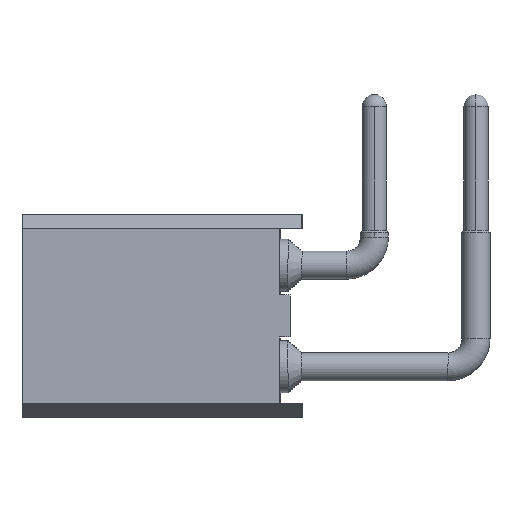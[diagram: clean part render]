
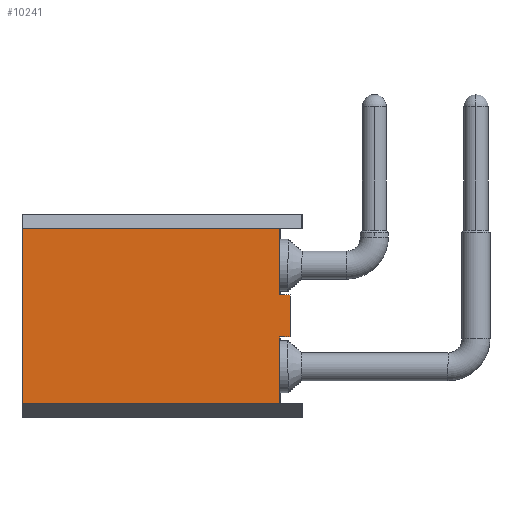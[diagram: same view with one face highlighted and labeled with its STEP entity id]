
A CAD part, left-side view. The second image highlights one B-rep face of the part: STEP entity #10241.
In plain terms, the highlighted planar face has unit normal (-1, 0, 0).
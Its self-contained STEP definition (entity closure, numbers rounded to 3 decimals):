
#174 = VERTEX_POINT ( 'NONE', #4517 ) ;
#452 = ORIENTED_EDGE ( 'NONE', *, *, #4054, .F. ) ;
#500 = LINE ( 'NONE', #1174, #7271 ) ;
#508 = ORIENTED_EDGE ( 'NONE', *, *, #3466, .F. ) ;
#711 = CARTESIAN_POINT ( 'NONE',  ( -1.299, -3.5, -3.419 ) ) ;
#1174 = CARTESIAN_POINT ( 'NONE',  ( -1.299, -3.05, -0.704 ) ) ;
#1310 = ORIENTED_EDGE ( 'NONE', *, *, #9054, .T. ) ;
#1502 = VECTOR ( 'NONE', #4329, 1000. ) ;
#1923 = DIRECTION ( 'NONE',  ( 0., 0., -1. ) ) ;
#2153 = CARTESIAN_POINT ( 'NONE',  ( -1.299, 3.5, -1.229 ) ) ;
#2385 = VERTEX_POINT ( 'NONE', #2921 ) ;
#2529 = CARTESIAN_POINT ( 'NONE',  ( -1.299, -2.95, 0.961 ) ) ;
#2636 = VERTEX_POINT ( 'NONE', #10167 ) ;
#2921 = CARTESIAN_POINT ( 'NONE',  ( -1.299, -3.2, -1.754 ) ) ;
#3235 = VECTOR ( 'NONE', #7664, 1000. ) ;
#3273 = VERTEX_POINT ( 'NONE', #3432 ) ;
#3432 = CARTESIAN_POINT ( 'NONE',  ( -1.299, -3.2, -0.704 ) ) ;
#3466 = EDGE_CURVE ( 'NONE', #10609, #5739, #8114, .T. ) ;
#3529 = VECTOR ( 'NONE', #5242, 1000. ) ;
#3553 = CARTESIAN_POINT ( 'NONE',  ( -1.299, -3.5, 0.961 ) ) ;
#3559 = ORIENTED_EDGE ( 'NONE', *, *, #7165, .T. ) ;
#3727 = EDGE_LOOP ( 'NONE', ( #10829, #452, #1310, #7285, #3559, #7727, #5823, #508 ) ) ;
#4054 = EDGE_CURVE ( 'NONE', #174, #2636, #9223, .T. ) ;
#4096 = DIRECTION ( 'NONE',  ( 0., 1., 0. ) ) ;
#4186 = DIRECTION ( 'NONE',  ( 0., 0., -1. ) ) ;
#4329 = DIRECTION ( 'NONE',  ( 0., 1., 0. ) ) ;
#4343 = CARTESIAN_POINT ( 'NONE',  ( -1.299, -3.05, -1.754 ) ) ;
#4517 = CARTESIAN_POINT ( 'NONE',  ( -1.299, -2.95, -1.754 ) ) ;
#4529 = PLANE ( 'NONE',  #7252 ) ;
#4581 = DIRECTION ( 'NONE',  ( 0., 0., 1. ) ) ;
#4769 = DIRECTION ( 'NONE',  ( 0., 0., 1. ) ) ;
#5242 = DIRECTION ( 'NONE',  ( 0., -1., 0. ) ) ;
#5560 = DIRECTION ( 'NONE',  ( 0., 1., 0. ) ) ;
#5561 = CARTESIAN_POINT ( 'NONE',  ( -1.299, 3.5, -1.229 ) ) ;
#5739 = VERTEX_POINT ( 'NONE', #9355 ) ;
#5777 = VECTOR ( 'NONE', #4186, 1000. ) ;
#5823 = ORIENTED_EDGE ( 'NONE', *, *, #9433, .T. ) ;
#5967 = LINE ( 'NONE', #3553, #1502 ) ;
#6266 = LINE ( 'NONE', #4343, #3529 ) ;
#6907 = EDGE_CURVE ( 'NONE', #3273, #2385, #10262, .T. ) ;
#6939 = LINE ( 'NONE', #7047, #8757 ) ;
#7047 = CARTESIAN_POINT ( 'NONE',  ( -1.299, -2.95, -0.704 ) ) ;
#7165 = EDGE_CURVE ( 'NONE', #3273, #9161, #500, .T. ) ;
#7252 = AXIS2_PLACEMENT_3D ( 'NONE', #2153, #7974, #4581 ) ;
#7271 = VECTOR ( 'NONE', #5560, 1000. ) ;
#7279 = EDGE_CURVE ( 'NONE', #2636, #10609, #8552, .T. ) ;
#7285 = ORIENTED_EDGE ( 'NONE', *, *, #6907, .F. ) ;
#7323 = CARTESIAN_POINT ( 'NONE',  ( -1.299, 3.5, -3.419 ) ) ;
#7664 = DIRECTION ( 'NONE',  ( 0., 0., -1. ) ) ;
#7727 = ORIENTED_EDGE ( 'NONE', *, *, #9091, .F. ) ;
#7974 = DIRECTION ( 'NONE',  ( 1., 0., 0. ) ) ;
#8114 = LINE ( 'NONE', #5561, #10834 ) ;
#8343 = CARTESIAN_POINT ( 'NONE',  ( -1.299, -3.2, -1.754 ) ) ;
#8552 = LINE ( 'NONE', #711, #9981 ) ;
#8757 = VECTOR ( 'NONE', #1923, 1000. ) ;
#8933 = FACE_OUTER_BOUND ( 'NONE', #3727, .T. ) ;
#9032 = CARTESIAN_POINT ( 'NONE',  ( -1.299, -2.95, -0.704 ) ) ;
#9054 = EDGE_CURVE ( 'NONE', #174, #2385, #6266, .T. ) ;
#9091 = EDGE_CURVE ( 'NONE', #9518, #9161, #6939, .T. ) ;
#9161 = VERTEX_POINT ( 'NONE', #9032 ) ;
#9223 = LINE ( 'NONE', #11087, #5777 ) ;
#9355 = CARTESIAN_POINT ( 'NONE',  ( -1.299, 3.5, 0.961 ) ) ;
#9433 = EDGE_CURVE ( 'NONE', #9518, #5739, #5967, .T. ) ;
#9518 = VERTEX_POINT ( 'NONE', #2529 ) ;
#9981 = VECTOR ( 'NONE', #4096, 1000. ) ;
#10167 = CARTESIAN_POINT ( 'NONE',  ( -1.299, -2.95, -3.419 ) ) ;
#10241 = ADVANCED_FACE ( 'NONE', ( #8933 ), #4529, .F. ) ;
#10262 = LINE ( 'NONE', #8343, #3235 ) ;
#10609 = VERTEX_POINT ( 'NONE', #7323 ) ;
#10829 = ORIENTED_EDGE ( 'NONE', *, *, #7279, .F. ) ;
#10834 = VECTOR ( 'NONE', #4769, 1000. ) ;
#11087 = CARTESIAN_POINT ( 'NONE',  ( -1.299, -2.95, -3.419 ) ) ;
